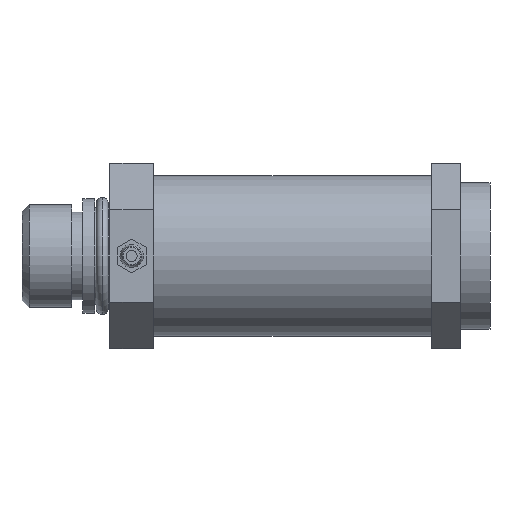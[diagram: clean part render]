
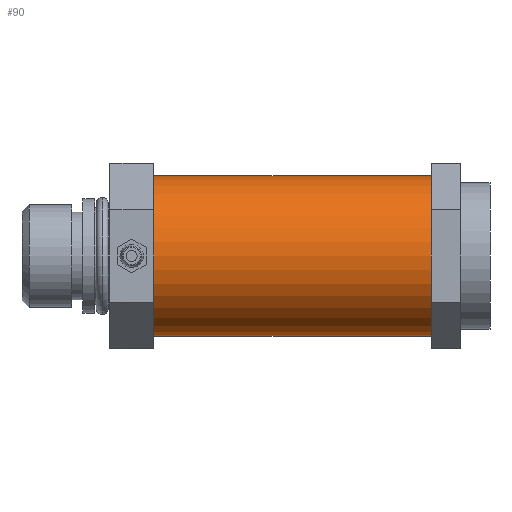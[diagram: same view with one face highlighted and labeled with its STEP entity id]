
A CAD part, front view. The second image highlights one B-rep face of the part: STEP entity #90.
In plain terms, the highlighted cylindrical face has radius 17.462 mm (diameter 34.925 mm), a partial arc.
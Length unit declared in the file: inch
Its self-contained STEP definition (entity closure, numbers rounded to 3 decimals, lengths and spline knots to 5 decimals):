
#28=CARTESIAN_POINT('',(-2.875,0.,0.));
#29=DIRECTION('',(-1.,0.,0.));
#30=DIRECTION('',(0.,0.,-1.));
#31=AXIS2_PLACEMENT_3D('',#28,#29,#30);
#38=DIRECTION('',(1.,0.,0.));
#39=VECTOR('',#38,2.375);
#40=CARTESIAN_POINT('',(-2.875,0.,0.6875));
#41=LINE('',#40,#39);
#42=DIRECTION('',(1.,0.,0.));
#43=VECTOR('',#42,2.375);
#44=CARTESIAN_POINT('',(-2.875,0.,-0.6875));
#45=LINE('',#44,#43);
#51=CARTESIAN_POINT('',(-0.5,0.,0.));
#52=DIRECTION('',(1.,0.,0.));
#53=DIRECTION('',(0.,0.,1.));
#54=AXIS2_PLACEMENT_3D('',#51,#52,#53);
#56=CARTESIAN_POINT('',(-2.875,0.,-0.6875));
#57=CARTESIAN_POINT('',(-0.5,0.,-0.6875));
#58=VERTEX_POINT('',#56);
#59=VERTEX_POINT('',#57);
#60=CARTESIAN_POINT('',(-2.875,0.,0.6875));
#61=CARTESIAN_POINT('',(-0.5,0.,0.6875));
#62=VERTEX_POINT('',#60);
#63=VERTEX_POINT('',#61);
#76=CARTESIAN_POINT('',(-2.375,0.,0.));
#77=DIRECTION('',(1.,0.,0.));
#78=DIRECTION('',(0.,0.,-1.));
#79=AXIS2_PLACEMENT_3D('',#76,#77,#78);
#80=CYLINDRICAL_SURFACE('',#79,0.6875);
#81=ORIENTED_EDGE('',*,*,#69,.T.);
#83=ORIENTED_EDGE('',*,*,#82,.T.);
#85=ORIENTED_EDGE('',*,*,#84,.T.);
#87=ORIENTED_EDGE('',*,*,#86,.F.);
#88=EDGE_LOOP('',(#81,#83,#85,#87));
#89=FACE_OUTER_BOUND('',#88,.F.);
#32=CIRCLE('',#31,0.6875);
#55=CIRCLE('',#54,0.6875);
#69=EDGE_CURVE('',#58,#62,#32,.T.);
#82=EDGE_CURVE('',#62,#63,#41,.T.);
#84=EDGE_CURVE('',#63,#59,#55,.T.);
#86=EDGE_CURVE('',#58,#59,#45,.T.);
#90=ADVANCED_FACE('',(#89),#80,.T.);
